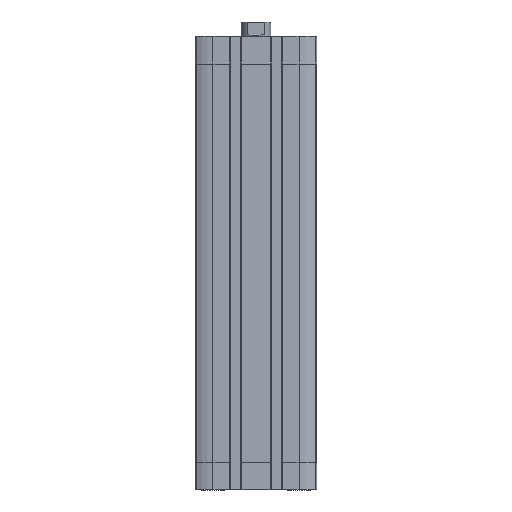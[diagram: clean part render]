
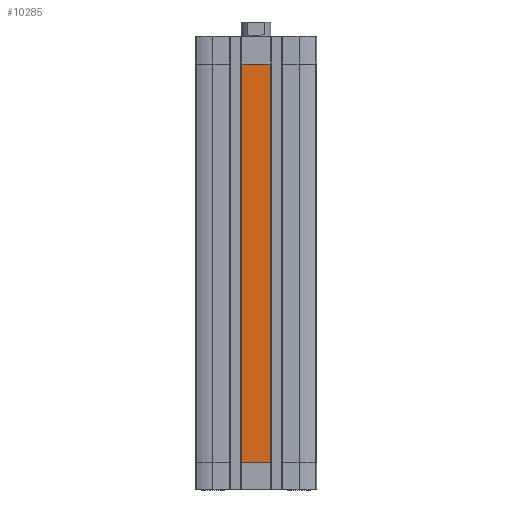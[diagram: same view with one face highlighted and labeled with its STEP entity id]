
A CAD part, front view. The second image highlights one B-rep face of the part: STEP entity #10285.
In plain terms, the highlighted planar face has unit normal (0, -1, 0).
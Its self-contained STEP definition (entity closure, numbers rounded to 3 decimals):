
#373 = CARTESIAN_POINT ( 'NONE',  ( -8., -32.5, -230. ) ) ;
#928 = DIRECTION ( 'NONE',  ( 0., 0., 1. ) ) ;
#1113 = EDGE_CURVE ( 'NONE', #11723, #13988, #7200, .T. ) ;
#1903 = CARTESIAN_POINT ( 'NONE',  ( -8., -32.5, -230. ) ) ;
#2508 = FACE_OUTER_BOUND ( 'NONE', #7615, .T. ) ;
#2771 = DIRECTION ( 'NONE',  ( 0., -1., 0. ) ) ;
#3360 = ORIENTED_EDGE ( 'NONE', *, *, #7735, .T. ) ;
#3450 = VERTEX_POINT ( 'NONE', #7269 ) ;
#3980 = VECTOR ( 'NONE', #10335, 1000. ) ;
#4455 = VERTEX_POINT ( 'NONE', #10410 ) ;
#4485 = CARTESIAN_POINT ( 'NONE',  ( 8., -32.5, -230. ) ) ;
#4692 = EDGE_CURVE ( 'NONE', #3450, #11723, #12656, .T. ) ;
#4934 = DIRECTION ( 'NONE',  ( 0., 0., -1. ) ) ;
#5597 = CARTESIAN_POINT ( 'NONE',  ( 0., -32.5, -15. ) ) ;
#5997 = VECTOR ( 'NONE', #928, 1000. ) ;
#6139 = CARTESIAN_POINT ( 'NONE',  ( 8., -32.5, -230. ) ) ;
#6427 = LINE ( 'NONE', #5597, #3980 ) ;
#7200 = LINE ( 'NONE', #10200, #13109 ) ;
#7269 = CARTESIAN_POINT ( 'NONE',  ( -8., -32.5, -15. ) ) ;
#7615 = EDGE_LOOP ( 'NONE', ( #13907, #3360, #9672, #13351 ) ) ;
#7735 = EDGE_CURVE ( 'NONE', #13988, #4455, #8779, .T. ) ;
#8512 = AXIS2_PLACEMENT_3D ( 'NONE', #373, #2771, #11120 ) ;
#8779 = LINE ( 'NONE', #4485, #5997 ) ;
#9672 = ORIENTED_EDGE ( 'NONE', *, *, #12946, .T. ) ;
#10200 = CARTESIAN_POINT ( 'NONE',  ( -8., -32.5, -230. ) ) ;
#10285 = ADVANCED_FACE ( 'NONE', ( #2508 ), #12253, .T. ) ;
#10335 = DIRECTION ( 'NONE',  ( -1., 0., 0. ) ) ;
#10410 = CARTESIAN_POINT ( 'NONE',  ( 8., -32.5, -15. ) ) ;
#11120 = DIRECTION ( 'NONE',  ( 0., 0., -1. ) ) ;
#11453 = DIRECTION ( 'NONE',  ( 1., 0., 0. ) ) ;
#11723 = VERTEX_POINT ( 'NONE', #1903 ) ;
#12253 = PLANE ( 'NONE',  #8512 ) ;
#12656 = LINE ( 'NONE', #13218, #15385 ) ;
#12946 = EDGE_CURVE ( 'NONE', #4455, #3450, #6427, .T. ) ;
#13109 = VECTOR ( 'NONE', #11453, 1000. ) ;
#13218 = CARTESIAN_POINT ( 'NONE',  ( -8., -32.5, -230. ) ) ;
#13351 = ORIENTED_EDGE ( 'NONE', *, *, #4692, .T. ) ;
#13907 = ORIENTED_EDGE ( 'NONE', *, *, #1113, .T. ) ;
#13988 = VERTEX_POINT ( 'NONE', #6139 ) ;
#15385 = VECTOR ( 'NONE', #4934, 1000. ) ;
